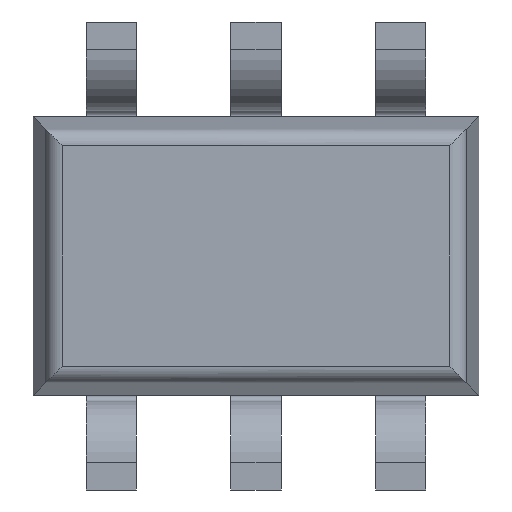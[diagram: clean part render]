
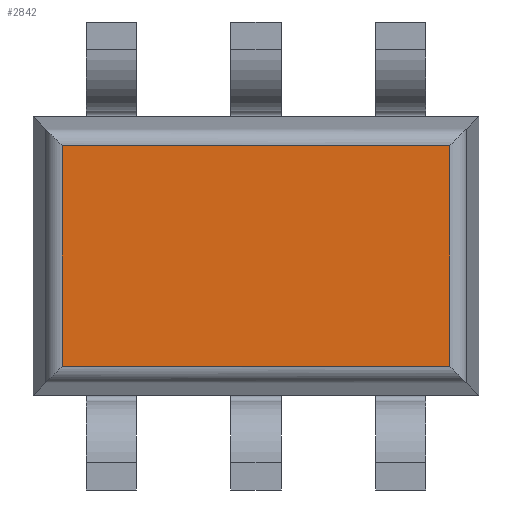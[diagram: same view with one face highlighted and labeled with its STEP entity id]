
A CAD part, front view. The second image highlights one B-rep face of the part: STEP entity #2842.
In plain terms, the highlighted planar face has unit normal (0, -1, 0).
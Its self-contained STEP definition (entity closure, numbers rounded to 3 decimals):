
#2803 = CARTESIAN_POINT ( 'NONE',  ( 0.869, 0., -0.494 ) ) ;
#2804 = VERTEX_POINT ( 'NONE', #2803 ) ;
#2805 = CARTESIAN_POINT ( 'NONE',  ( 0.869, 0., 0.494 ) ) ;
#2806 = VERTEX_POINT ( 'NONE', #2805 ) ;
#2807 = CARTESIAN_POINT ( 'NONE',  ( 0.869, 0., 0.018 ) ) ;
#2808 = DIRECTION ( 'NONE',  ( 0., 0., 1. ) ) ;
#2809 = VECTOR ( 'NONE', #2808, 1000. ) ;
#2810 = LINE ( 'NONE', #2807, #2809 ) ;
#2811 = EDGE_CURVE ( 'NONE', #2804, #2806, #2810, .T. ) ;
#2812 = ORIENTED_EDGE ( 'NONE', *, *, #2811, .T. ) ;
#2813 = CARTESIAN_POINT ( 'NONE',  ( -0.869, 0., 0.494 ) ) ;
#2814 = VERTEX_POINT ( 'NONE', #2813 ) ;
#2815 = CARTESIAN_POINT ( 'NONE',  ( -0.1, 0., 0.494 ) ) ;
#2816 = DIRECTION ( 'NONE',  ( -1., 0., 0. ) ) ;
#2817 = VECTOR ( 'NONE', #2816, 1000. ) ;
#2818 = LINE ( 'NONE', #2815, #2817 ) ;
#2819 = EDGE_CURVE ( 'NONE', #2806, #2814, #2818, .T. ) ;
#2820 = ORIENTED_EDGE ( 'NONE', *, *, #2819, .T. ) ;
#2821 = CARTESIAN_POINT ( 'NONE',  ( -0.869, 0., -0.494 ) ) ;
#2822 = VERTEX_POINT ( 'NONE', #2821 ) ;
#2823 = CARTESIAN_POINT ( 'NONE',  ( -0.869, 0., 0.018 ) ) ;
#2824 = DIRECTION ( 'NONE',  ( 0., 0., -1. ) ) ;
#2825 = VECTOR ( 'NONE', #2824, 1000. ) ;
#2826 = LINE ( 'NONE', #2823, #2825 ) ;
#2827 = EDGE_CURVE ( 'NONE', #2814, #2822, #2826, .T. ) ;
#2828 = ORIENTED_EDGE ( 'NONE', *, *, #2827, .T. ) ;
#2829 = CARTESIAN_POINT ( 'NONE',  ( -0.1, 0., -0.494 ) ) ;
#2830 = DIRECTION ( 'NONE',  ( 1., 0., 0. ) ) ;
#2831 = VECTOR ( 'NONE', #2830, 1000. ) ;
#2832 = LINE ( 'NONE', #2829, #2831 ) ;
#2833 = EDGE_CURVE ( 'NONE', #2822, #2804, #2832, .T. ) ;
#2834 = ORIENTED_EDGE ( 'NONE', *, *, #2833, .T. ) ;
#2835 = EDGE_LOOP ( 'NONE', ( #2812, #2820, #2828, #2834 ) ) ;
#2836 = FACE_OUTER_BOUND ( 'NONE', #2835, .T. ) ;
#2837 = CARTESIAN_POINT ( 'NONE',  ( -0.1, 0., 0.018 ) ) ;
#2838 = DIRECTION ( 'NONE',  ( 0., -1., 0. ) ) ;
#2839 = DIRECTION ( 'NONE',  ( 0., 0., -1. ) ) ;
#2840 = AXIS2_PLACEMENT_3D ( 'NONE', #2837, #2838, #2839 ) ;
#2841 = PLANE ( 'NONE', #2840 ) ;
#2842 = ADVANCED_FACE ( 'NONE', ( #2836 ), #2841, .T. ) ;
